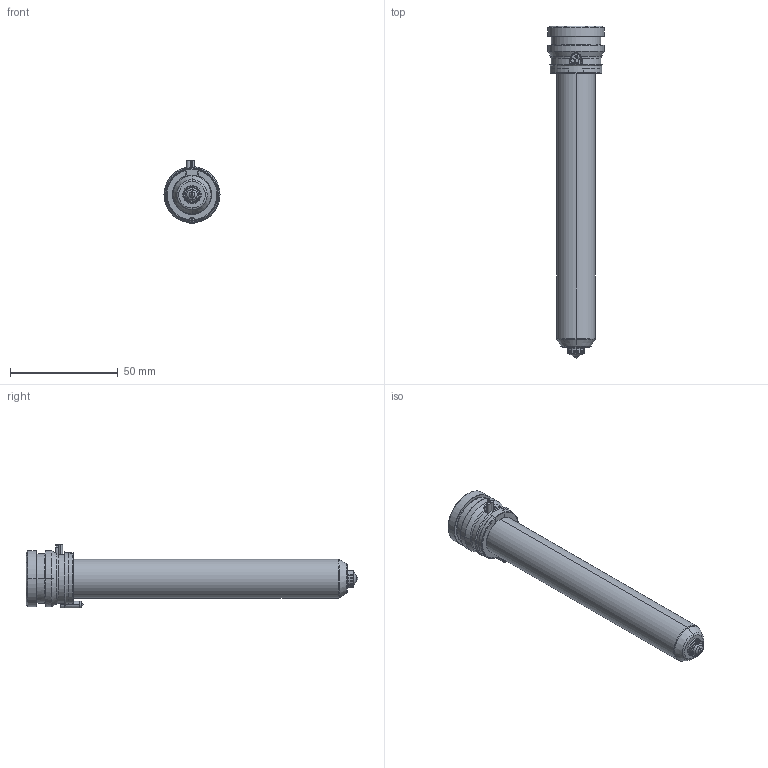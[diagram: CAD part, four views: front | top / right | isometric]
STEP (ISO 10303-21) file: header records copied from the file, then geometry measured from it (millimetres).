
FILE_DESCRIPTION((''),'2;1');
FILE_NAME('TH18136-A-1GLT-PK-JG','2023-12-14T',('umhib'),('Thermoplay S.p.A.'),'PRO/ENGINEER BY PARAMETRIC TECHNOLOGY CORPORATION, 2017170','PRO/ENGINEER BY PARAMETRIC TECHNOLOGY CORPORATION, 2017170','');
FILE_SCHEMA(('CONFIG_CONTROL_DESIGN'));
Length unit declared in the file: millimetre
Products named in the file (1): TH18136-A-1GLT-PK-JG
Bounding box: 26 x 154 x 29.5 mm (x, y, z)
Volume: 31316.4 mm3; surface area: 22997.9 mm2
Topology: 1 solids, 2 shells, 418 faces, 1085 edges, 675 vertices
Faces by surface type: cylinder 162, plane 90, cone 68, torus 62, bspline 24, sphere 10, extrusion 2
Entity records: 18144 total; most frequent: CARTESIAN_POINT 5864, DIRECTION 2187, ORIENTED_EDGE 2146, EDGE_CURVE 1075, AXIS2_PLACEMENT_3D 886, VERTEX_POINT 675, CIRCLE 493, EDGE_LOOP 443
